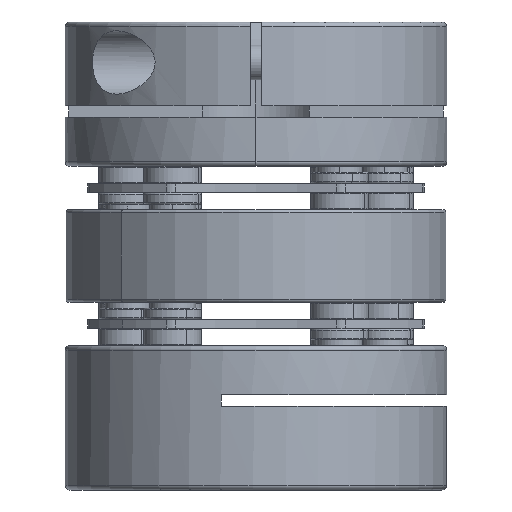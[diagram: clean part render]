
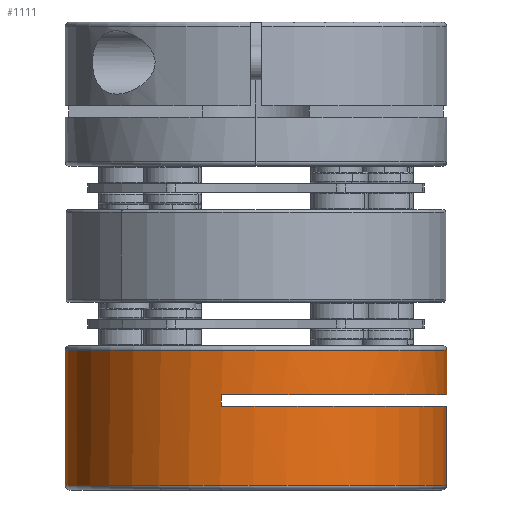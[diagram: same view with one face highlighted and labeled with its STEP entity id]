
A CAD part, left-side view. The second image highlights one B-rep face of the part: STEP entity #1111.
In plain terms, the highlighted cylindrical face has radius 33 mm (diameter 66 mm), a partial arc.
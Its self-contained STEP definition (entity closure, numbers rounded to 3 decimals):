
#164 = EDGE_CURVE ( 'NONE', #165, #166, #4181, .T. ) ;
#165 = VERTEX_POINT ( 'NONE', #4177 ) ;
#166 = VERTEX_POINT ( 'NONE', #4176 ) ;
#241 = VERTEX_POINT ( 'NONE', #4247 ) ;
#244 = VERTEX_POINT ( 'NONE', #4241 ) ;
#395 = DIRECTION ( 'NONE',  ( 1., 0., 0. ) ) ;
#396 = DIRECTION ( 'NONE',  ( 0., 0., 1. ) ) ;
#397 = CARTESIAN_POINT ( 'NONE',  ( 0., 0., 0.8 ) ) ;
#398 = AXIS2_PLACEMENT_3D ( 'NONE', #397, #396, #395 ) ;
#399 = CIRCLE ( 'NONE', #398, 33. ) ;
#400 = DIRECTION ( 'NONE',  ( 0., 0., -1. ) ) ;
#401 = VECTOR ( 'NONE', #400, 1000. ) ;
#402 = CARTESIAN_POINT ( 'NONE',  ( 6., -32.45, 25. ) ) ;
#403 = LINE ( 'NONE', #402, #401 ) ;
#404 = CARTESIAN_POINT ( 'NONE',  ( 6., -32.45, 10.5 ) ) ;
#405 = DIRECTION ( 'NONE',  ( 0., 1., 0. ) ) ;
#406 = DIRECTION ( 'NONE',  ( 0., 0., -1. ) ) ;
#407 = CARTESIAN_POINT ( 'NONE',  ( 0., 0., 10.5 ) ) ;
#408 = AXIS2_PLACEMENT_3D ( 'NONE', #407, #406, #405 ) ;
#409 = CIRCLE ( 'NONE', #408, 33. ) ;
#410 = CARTESIAN_POINT ( 'NONE',  ( -32.985, -1., 10.5 ) ) ;
#411 = DIRECTION ( 'NONE',  ( 0., 0., 1. ) ) ;
#412 = VECTOR ( 'NONE', #411, 1000. ) ;
#413 = CARTESIAN_POINT ( 'NONE',  ( -32.985, -1., 25. ) ) ;
#414 = LINE ( 'NONE', #413, #412 ) ;
#430 = DIRECTION ( 'NONE',  ( 0., -1., 0. ) ) ;
#431 = DIRECTION ( 'NONE',  ( 0., 0., 1. ) ) ;
#432 = CARTESIAN_POINT ( 'NONE',  ( 0., 0., 8.5 ) ) ;
#433 = AXIS2_PLACEMENT_3D ( 'NONE', #432, #431, #430 ) ;
#434 = CIRCLE ( 'NONE', #433, 33. ) ;
#501 = CARTESIAN_POINT ( 'NONE',  ( 6., -32.45, 8.5 ) ) ;
#1056 = EDGE_CURVE ( 'NONE', #165, #244, #5358, .T. ) ;
#1060 = EDGE_CURVE ( 'NONE', #1062, #241, #5354, .T. ) ;
#1062 = VERTEX_POINT ( 'NONE', #5350 ) ;
#1111 = ADVANCED_FACE ( 'NONE', ( #5367 ), #5364, .T. ) ;
#1112 = EDGE_LOOP ( 'NONE', ( #1114, #1116, #1436, #1440, #1447, #1449, #1450, #1452 ) ) ;
#1114 = ORIENTED_EDGE ( 'NONE', *, *, #1056, .F. ) ;
#1116 = ORIENTED_EDGE ( 'NONE', *, *, #164, .T. ) ;
#1436 = ORIENTED_EDGE ( 'NONE', *, *, #1437, .F. ) ;
#1437 = EDGE_CURVE ( 'NONE', #1438, #166, #414, .T. ) ;
#1438 = VERTEX_POINT ( 'NONE', #410 ) ;
#1440 = ORIENTED_EDGE ( 'NONE', *, *, #1443, .F. ) ;
#1443 = EDGE_CURVE ( 'NONE', #1446, #1438, #409, .T. ) ;
#1446 = VERTEX_POINT ( 'NONE', #404 ) ;
#1447 = ORIENTED_EDGE ( 'NONE', *, *, #1448, .T. ) ;
#1448 = EDGE_CURVE ( 'NONE', #1446, #1535, #403, .T. ) ;
#1449 = ORIENTED_EDGE ( 'NONE', *, *, #1484, .F. ) ;
#1450 = ORIENTED_EDGE ( 'NONE', *, *, #1060, .T. ) ;
#1452 = ORIENTED_EDGE ( 'NONE', *, *, #1454, .T. ) ;
#1454 = EDGE_CURVE ( 'NONE', #241, #244, #399, .T. ) ;
#1484 = EDGE_CURVE ( 'NONE', #1062, #1535, #434, .T. ) ;
#1535 = VERTEX_POINT ( 'NONE', #501 ) ;
#4176 = CARTESIAN_POINT ( 'NONE',  ( -32.985, -1., 24.2 ) ) ;
#4177 = CARTESIAN_POINT ( 'NONE',  ( 33., 0., 24.2 ) ) ;
#4178 = DIRECTION ( 'NONE',  ( 1., 0., 0. ) ) ;
#4179 = DIRECTION ( 'NONE',  ( 0., 0., -1. ) ) ;
#4180 = AXIS2_PLACEMENT_3D ( 'NONE', #4186, #4179, #4178 ) ;
#4181 = CIRCLE ( 'NONE', #4180, 33. ) ;
#4186 = CARTESIAN_POINT ( 'NONE',  ( 0., 0., 24.2 ) ) ;
#4241 = CARTESIAN_POINT ( 'NONE',  ( 33., 0., 0.8 ) ) ;
#4247 = CARTESIAN_POINT ( 'NONE',  ( -33., 0., 0.8 ) ) ;
#5350 = CARTESIAN_POINT ( 'NONE',  ( -33., 0., 8.5 ) ) ;
#5351 = DIRECTION ( 'NONE',  ( 0., 0., -1. ) ) ;
#5352 = VECTOR ( 'NONE', #5351, 1000. ) ;
#5353 = CARTESIAN_POINT ( 'NONE',  ( -33., 0., 25. ) ) ;
#5354 = LINE ( 'NONE', #5353, #5352 ) ;
#5355 = DIRECTION ( 'NONE',  ( 0., 0., -1. ) ) ;
#5356 = VECTOR ( 'NONE', #5355, 1000. ) ;
#5357 = CARTESIAN_POINT ( 'NONE',  ( 33., 0., 25. ) ) ;
#5358 = LINE ( 'NONE', #5357, #5356 ) ;
#5361 = DIRECTION ( 'NONE',  ( -1., 0., 0. ) ) ;
#5362 = DIRECTION ( 'NONE',  ( 0., 0., -1. ) ) ;
#5363 = AXIS2_PLACEMENT_3D ( 'NONE', #5366, #5362, #5361 ) ;
#5364 = CYLINDRICAL_SURFACE ( 'NONE', #5363, 33. ) ;
#5366 = CARTESIAN_POINT ( 'NONE',  ( 0., 0., 25. ) ) ;
#5367 = FACE_OUTER_BOUND ( 'NONE', #1112, .T. ) ;
